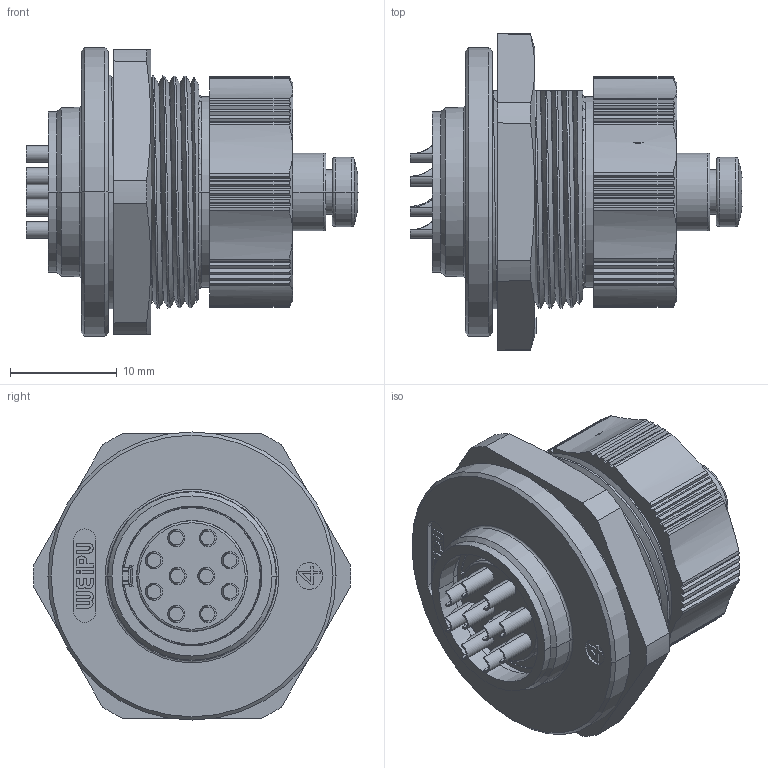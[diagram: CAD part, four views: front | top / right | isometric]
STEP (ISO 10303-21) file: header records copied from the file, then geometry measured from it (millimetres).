
FILE_DESCRIPTION((''),'2;1');
FILE_NAME('PRT0003','2021-01-21T',('Administrator'),(''),'CREO PARAMETRIC BY PTC INC, 2016130','CREO PARAMETRIC BY PTC INC, 2016130','');
FILE_SCHEMA(('CONFIG_CONTROL_DESIGN'));
Length unit declared in the file: inch
Products named in the file (1): PRT0003
Bounding box: 31.11 x 29.72 x 27 mm (x, y, z)
Volume: 8015.4 mm3; surface area: 6236.1 mm2
Topology: 1 solids, 1 shells, 651 faces, 1885 edges, 1269 vertices
Faces by surface type: plane 327, cylinder 196, cone 75, bspline 29, torus 19, extrusion 3, sphere 2
Entity records: 26505 total; most frequent: CARTESIAN_POINT 9534, ORIENTED_EDGE 3766, DIRECTION 3307, EDGE_CURVE 1883, VERTEX_POINT 1269, AXIS2_PLACEMENT_3D 1220, VECTOR 867, LINE 864
